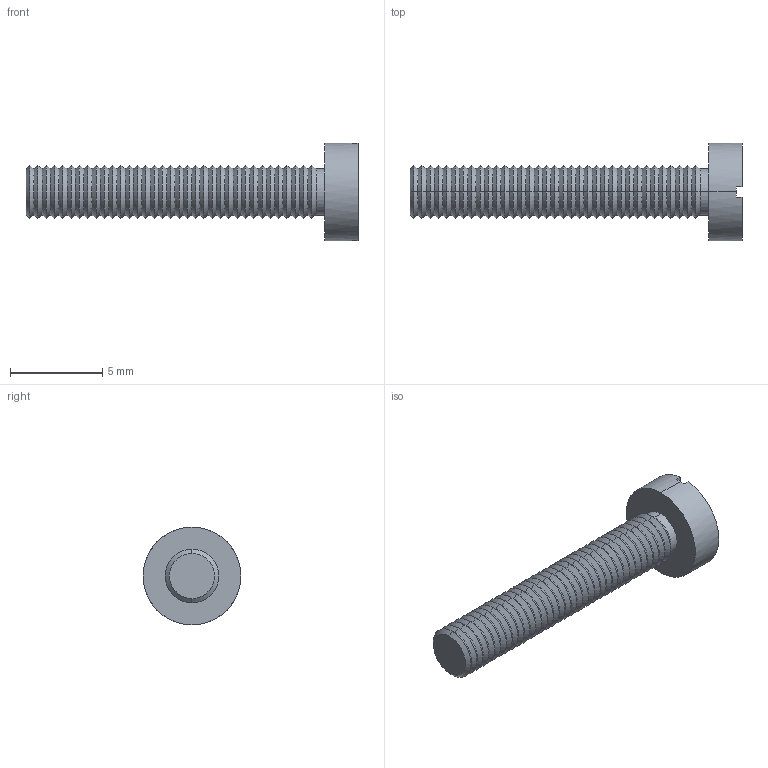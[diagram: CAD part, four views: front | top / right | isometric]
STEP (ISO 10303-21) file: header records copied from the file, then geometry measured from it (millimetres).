
FILE_DESCRIPTION (( 'STEP AP214' ), '1' );
FILE_NAME ('Cargol M 3x8 PP63C.STEP', '2017-01-23T03:18:15', ( 'aaa' ), ( '' ), 'SwSTEP 2.0', 'SolidWorks 2013', '' );
FILE_SCHEMA (( 'AUTOMOTIVE_DESIGN' ));
Length unit declared in the file: millimetre
Products named in the file (1): Cargol M 3x8 PP63C
Bounding box: 18 x 5.3 x 5.3 mm (x, y, z)
Volume: 131.3 mm3; surface area: 259.2 mm2
Topology: 1 solids, 1 shells, 151 faces, 304 edges, 156 vertices
Faces by surface type: cone 140, plane 7, cylinder 4
Entity records: 3844 total; most frequent: DIRECTION 760, CARTESIAN_POINT 612, ORIENTED_EDGE 608, AXIS2_PLACEMENT_3D 304, EDGE_CURVE 304, VERTEX_POINT 156, VECTOR 152, CIRCLE 152
